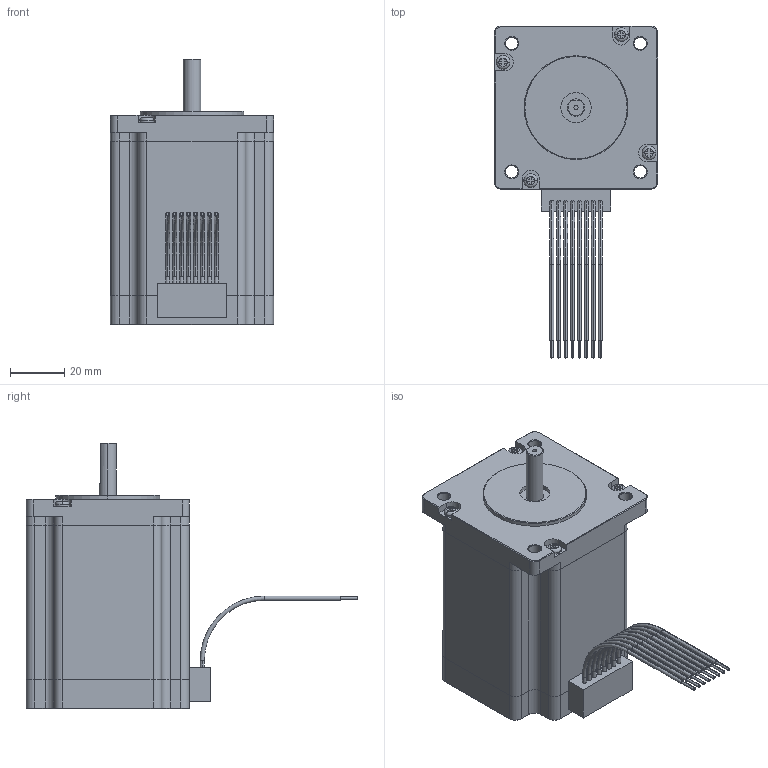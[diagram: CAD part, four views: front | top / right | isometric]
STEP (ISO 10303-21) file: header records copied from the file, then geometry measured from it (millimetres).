
FILE_DESCRIPTION (( 'STEP AP214' ), '1' );
FILE_NAME ('24Y404S-LW8.STEP', '2010-06-11T18:04:31', ( 'Tim Raines' ), ( 'Anaheim Automation' ), 'SwSTEP 2.0', 'SolidWorks 2010', '' );
FILE_SCHEMA (( 'AUTOMOTIVE_DESIGN' ));
Length unit declared in the file: inch
Products named in the file (1): 24Y404S-LW8
Bounding box: 59.94 x 121.84 x 97.56 mm (x, y, z)
Volume: 251185.1 mm3; surface area: 29360.9 mm2
Topology: 1 solids, 1 shells, 385 faces, 966 edges, 608 vertices
Faces by surface type: plane 175, cylinder 131, cone 55, torus 24
Entity records: 16616 total; most frequent: CARTESIAN_POINT 2206, DIRECTION 2039, ORIENTED_EDGE 1916, EDGE_CURVE 958, AXIS2_PLACEMENT_3D 753, VERTEX_POINT 608, LINE 533, VECTOR 533
